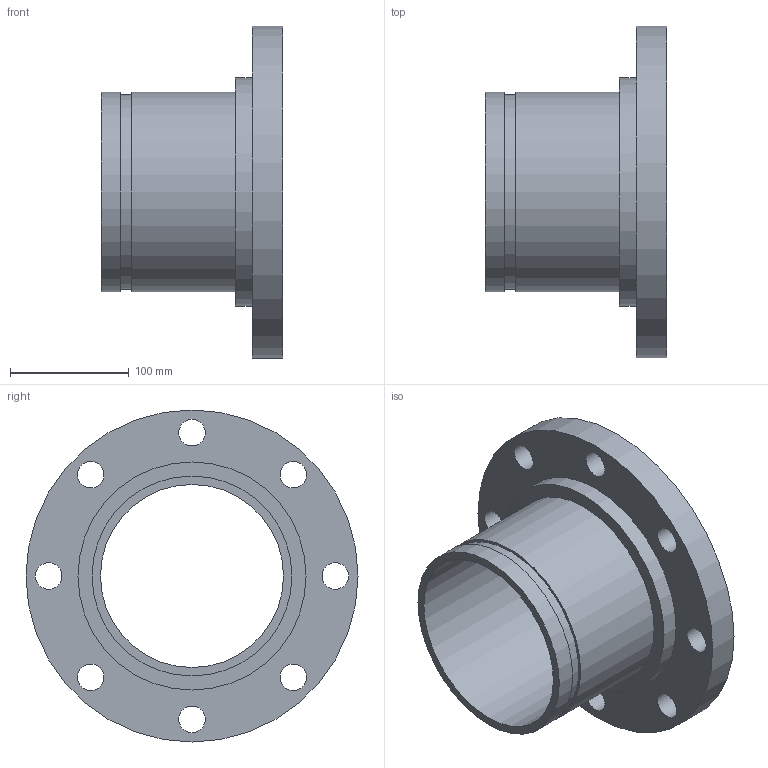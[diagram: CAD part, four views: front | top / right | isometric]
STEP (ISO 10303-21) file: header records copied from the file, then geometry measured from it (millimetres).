
FILE_DESCRIPTION(/* description */ ('VIC FLANGE ADAPTER No 45F','CAx-IF Rec.Pracs.---Representation and Presentation of Product Manufacturing Information (PMI)---4.0---2014-10-13'),/* implementation_level */ '2;1');
FILE_NAME(/* name */ 'C:\Users\kkamble\AppData\Roaming\Autodesk\ApplicationPlugins\Back Up\Victaulic_IPS_Flanged Adapter Nipple_CL 150 FF_No 45F (OGSxFLG)\Victaulic_IPS_Flanged Adapter Nipple_CL 150 FF_No 45F (OGSxFLG)_6 (150).stp',/* time_stamp */ '2020-07-26T22:23:08+06:00',/* author */ ('CONSTRUCTION PIPING SERVICES'),/* organization */ ('Victaulic'),/* preprocessor_version */ 'ST-DEVELOPER v17.2',/* originating_system */ 'Autodesk Inventor 2019',/* authorisation */ '');
FILE_SCHEMA (('AP242_MANAGED_MODEL_BASED_3D_ENGINEERING_MIM_LF { 1 0 10303 442 1 1 4 }'));
Length unit declared in the file: inch
Products named in the file (1): 045F-06.0
Bounding box: 152.4 x 279.4 x 279.4 mm (x, y, z)
Volume: 1546323.4 mm3; surface area: 259711.8 mm2
Topology: 1 solids, 1 shells, 20 faces, 54 edges, 40 vertices
Faces by surface type: cylinder 14, plane 6
Full cylindrical faces by diameter (mm): 22.352 x8, 154.051 x1, 163.957 x1, 168.275 x2, 192.024 x1, 279.4 x1
Entity records: 782 total; most frequent: DIRECTION 136, CARTESIAN_POINT 115, ORIENTED_EDGE 108, AXIS2_PLACEMENT_3D 61, EDGE_CURVE 54, EDGE_LOOP 42, CIRCLE 40, VERTEX_POINT 40
